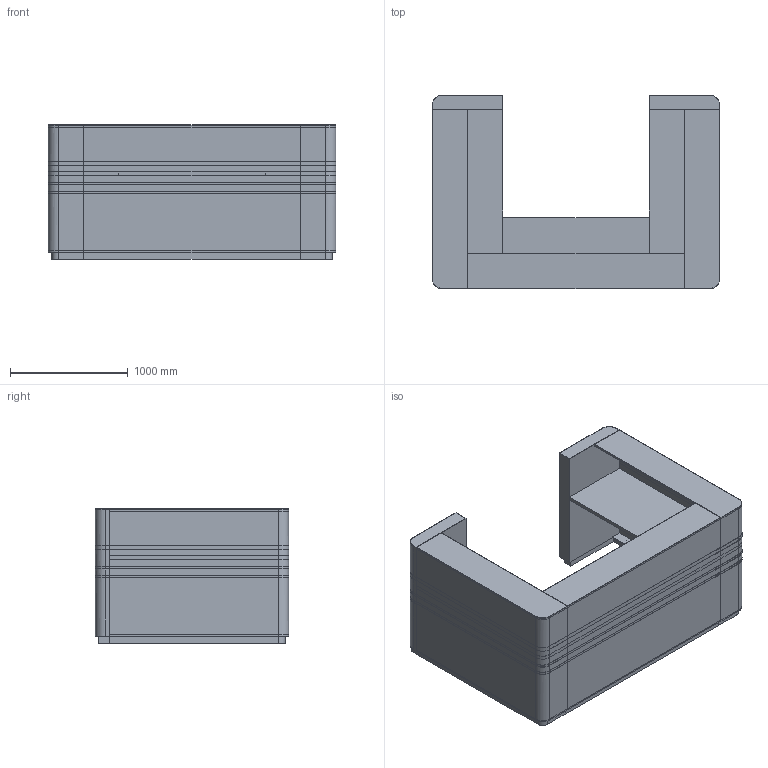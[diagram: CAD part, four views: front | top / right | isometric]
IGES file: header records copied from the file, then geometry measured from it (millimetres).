
Start section: Comment
Global section: file name: U-Form - 244 x 164 - ZL.igs; native system:  By UGS Corp.; preprocessor: XPlus GENERIC/IGES 3.0; author: Author; organization: Title; date: 20181120.111841; units: inch
Bounding box: 2443 x 1643 x 1140.01 mm (x, y, z)
Surface area: 27962667.5 mm2 (no closed solid volume)
Topology: 0 solids, 0 shells, 223 faces, 1272 edges, 1272 vertices
Faces by surface type: bspline 223
